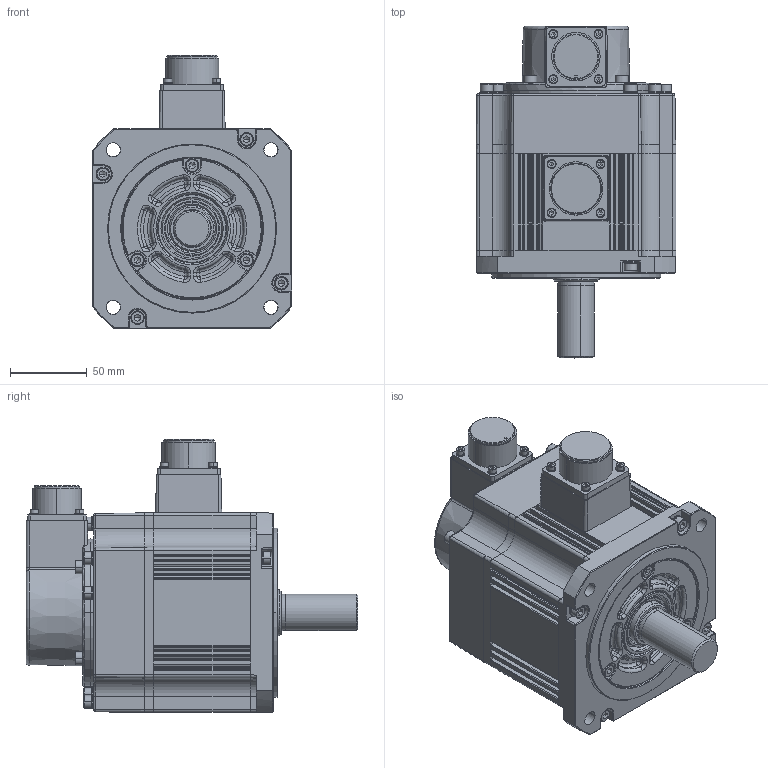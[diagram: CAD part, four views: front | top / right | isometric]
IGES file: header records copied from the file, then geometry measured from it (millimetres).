
Global section: file name: 7HNo Iges File Name specified; native system: AutoDesk Inventor R12.0; preprocessor: AutoDesk Inventor Iges Exporter R12.0; author: No Author specified; organization: No Organization specified; date: 20160715.192454; units: millimetre
Bounding box: 130.1 x 215.9 x 177.8 mm (x, y, z)
Volume: 2138572.6 mm3; surface area: 190821.2 mm2
Topology: 74 solids, 74 shells, 2412 faces, 5639 edges, 3362 vertices
Faces by surface type: plane 780, revolution 725, cylinder 391, torus 320, bspline 101, cone 86, sphere 9
